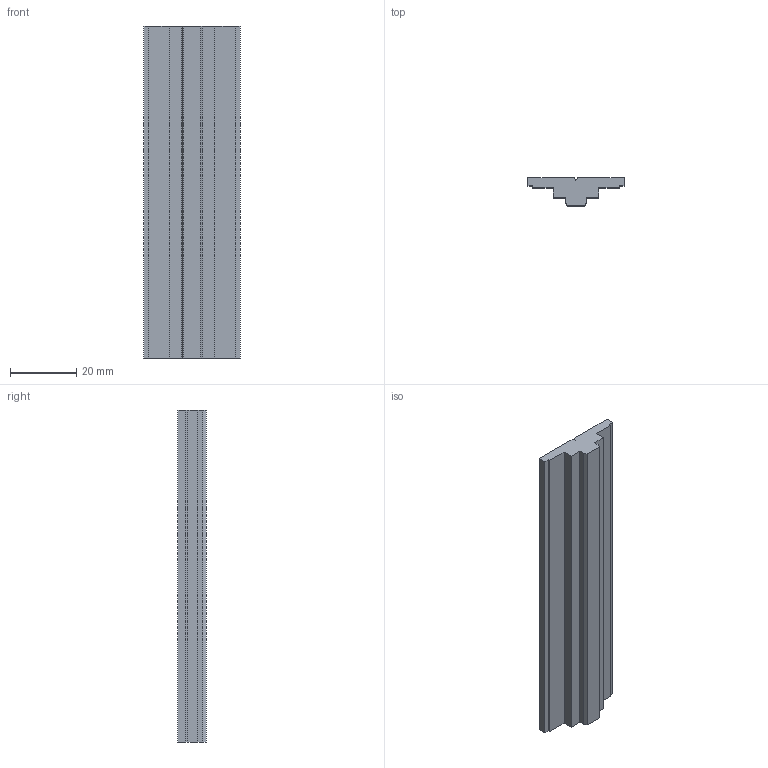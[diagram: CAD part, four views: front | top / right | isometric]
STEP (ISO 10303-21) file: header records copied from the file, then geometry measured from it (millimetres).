
FILE_DESCRIPTION(/* description */ (''),/* implementation_level */ '2;1');
FILE_NAME(/* name */ 'C:\Users\AM\Desktop\新型錄\AM6系列\6\X2\7CFB5217\X0\-3D\06.6系列-AMF-飾條配件\AMF-SP.stp',/* time_stamp */ '2021-01-18T10:32:37+08:00',/* author */ ('AM'),/* organization */ (''),/* preprocessor_version */ 'ST-DEVELOPER v16.5',/* originating_system */ 'Autodesk Inventor 2017',/* authorisation */ '');
FILE_SCHEMA (('AUTOMOTIVE_DESIGN { 1 0 10303 214 3 1 1 }'));
Length unit declared in the file: millimetre
Products named in the file (1): 零件22
Bounding box: 29 x 8.5 x 100 mm (x, y, z)
Volume: 14110 mm3; surface area: 7829.4 mm2
Topology: 1 solids, 1 shells, 23 faces, 63 edges, 42 vertices
Faces by surface type: plane 23
Entity records: 741 total; most frequent: CARTESIAN_POINT 129, ORIENTED_EDGE 126, DIRECTION 111, LINE 63, VECTOR 63, EDGE_CURVE 63, VERTEX_POINT 42, AXIS2_PLACEMENT_3D 24
